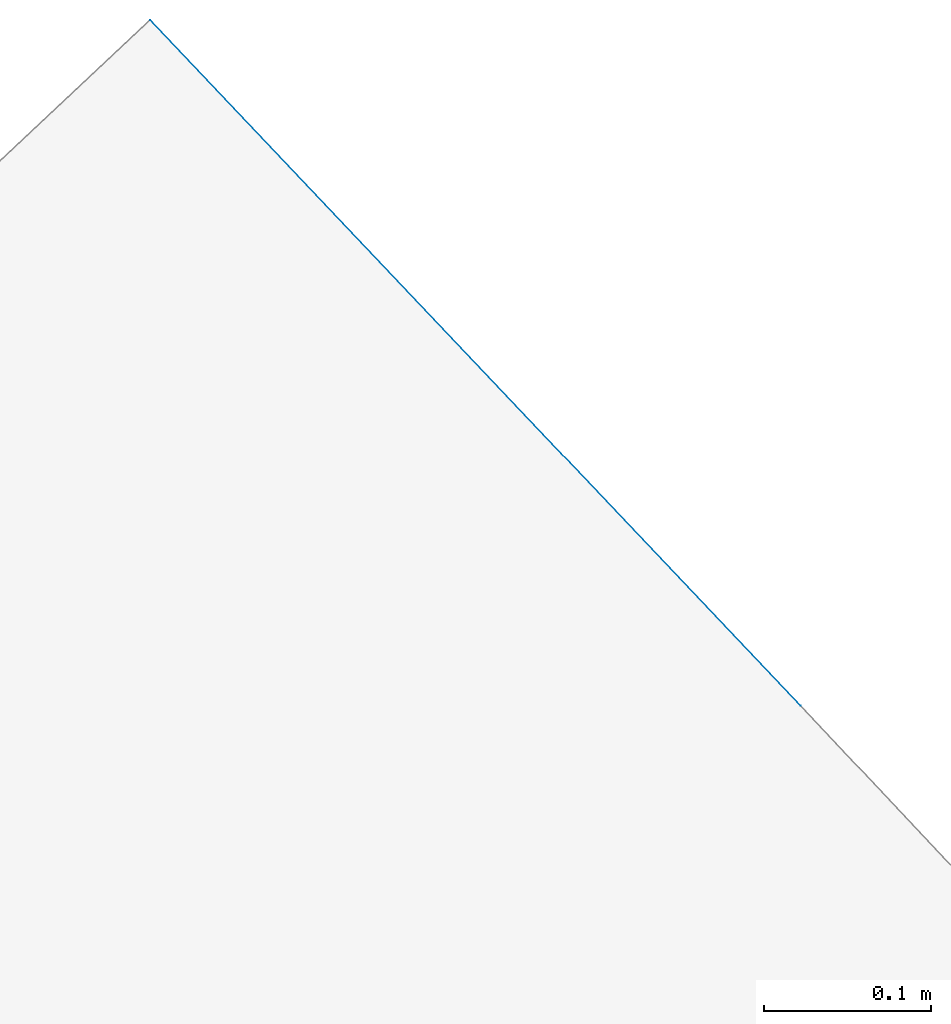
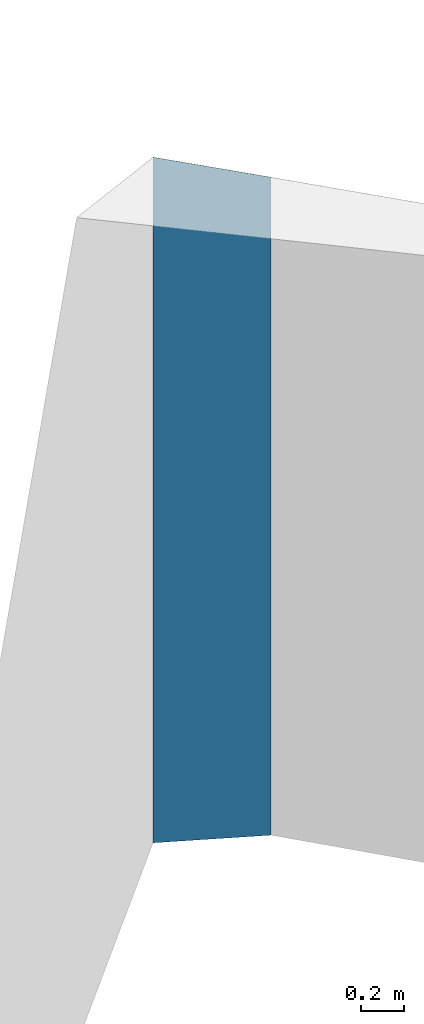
# Not in any storey, part 55 of 136: 1 wall.
"""IFC2X3 building model written with IfcOpenShell, lengths in metres."""

from ifc_helpers import new_model, entity, si_unit, converted_unit, origin, place, context, subcontext, project, spatial, face_set, surface_model, element, save


model = new_model("IFC2X3")

# Units and contexts
model_context = context("Model", 3, precision=1e-05, world=origin())
body_context = subcontext(model_context, "Body", "Model", "MODEL_VIEW")
ifc_project = project(units=[converted_unit("PLANEANGLEUNIT", "DEGREE", entity("IfcRatioMeasure", 0.0174532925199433), si_unit("PLANEANGLEUNIT", "RADIAN"), dimensions=[0, 0, 0, 0, 0, 0, 0]), si_unit("AREAUNIT", "SQUARE_METRE"), si_unit("LENGTHUNIT", "METRE")], contexts=[model_context])

# Site, building
site_placement = place(None, origin())
site = spatial("IfcSite", under=ifc_project, at=site_placement, Name="_site", CompositionType="ELEMENT")
building_placement = place(site_placement, origin())
building = spatial("IfcBuilding", under=site, at=building_placement, Name="_building", CompositionType="ELEMENT")

# Wall
wall_placement = place(building_placement, origin())
element("IfcWall", 1, at=wall_placement, inside=building, Name="Wall", context=body_context, shape_type="SurfaceModel", body=[
    surface_model("IfcFaceBasedSurfaceModel", [(45.81, 169.271, 44.65), (46.2, 168.86, 44.65), (46.2, 168.86, 40.944), (45.81, 169.271, 40.788)], [face_set([[[0, 1, 2, 3]]])]),
])

save(model, "model.ifc")
